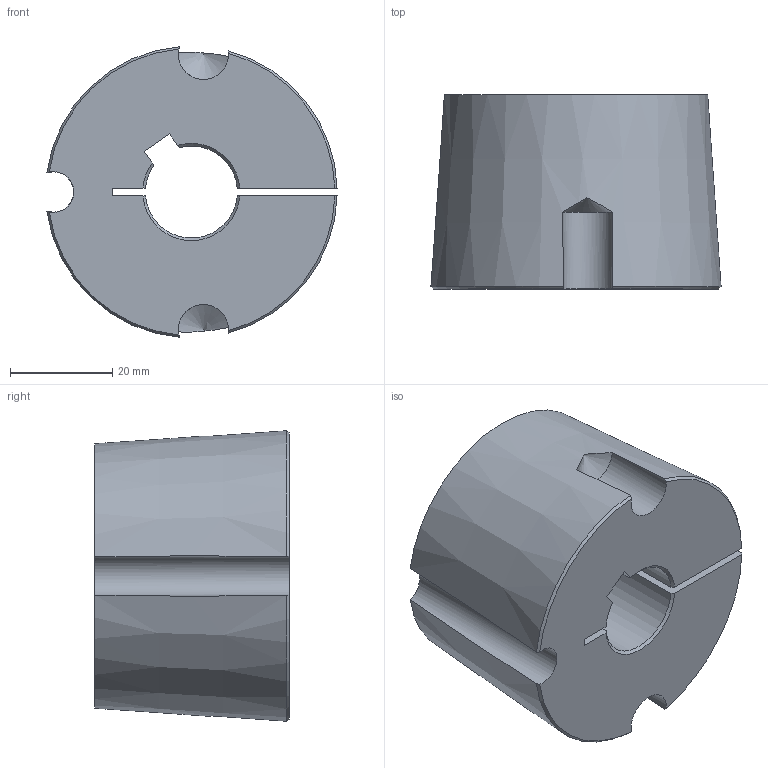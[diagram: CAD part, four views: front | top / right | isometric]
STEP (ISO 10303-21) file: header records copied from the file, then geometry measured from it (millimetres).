
FILE_DESCRIPTION(/* description */ (''),/* implementation_level */ '2;1');
FILE_NAME(/* name */ '\\emc\varie\PROGETTO SCUOLA\29\bussole coniche 3D\29161518-3d.stp',/* time_stamp */ '2017-12-15T16:43:11+01:00',/* author */ ('stagistacad'),/* organization */ (''),/* preprocessor_version */ 'ST-DEVELOPER v15.6',/* originating_system */ 'Autodesk Inventor 2015',/* authorisation */ '');
FILE_SCHEMA (('AUTOMOTIVE_DESIGN { 1 0 10303 214 3 1 1 }'));
Length unit declared in the file: millimetre
Products named in the file (1): 29161518-3d
Bounding box: 56.74 x 38 x 56.81 mm (x, y, z)
Volume: 74199.6 mm3; surface area: 14926.4 mm2
Topology: 1 solids, 1 shells, 30 faces, 88 edges, 58 vertices
Faces by surface type: cone 14, plane 10, cylinder 6
Entity records: 1050 total; most frequent: CARTESIAN_POINT 297, ORIENTED_EDGE 168, DIRECTION 144, EDGE_CURVE 84, AXIS2_PLACEMENT_3D 59, VERTEX_POINT 56, FACE_OUTER_BOUND 30, EDGE_LOOP 30
